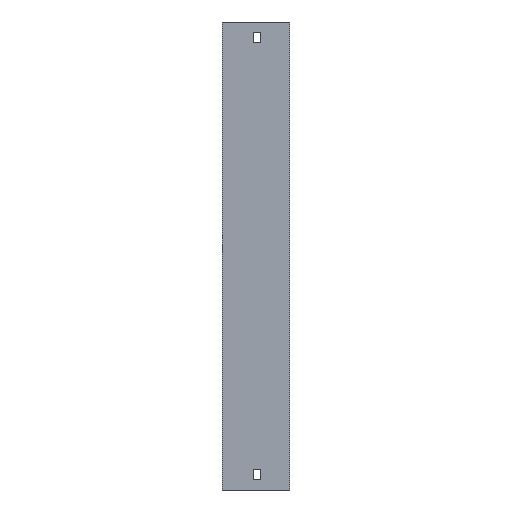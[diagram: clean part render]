
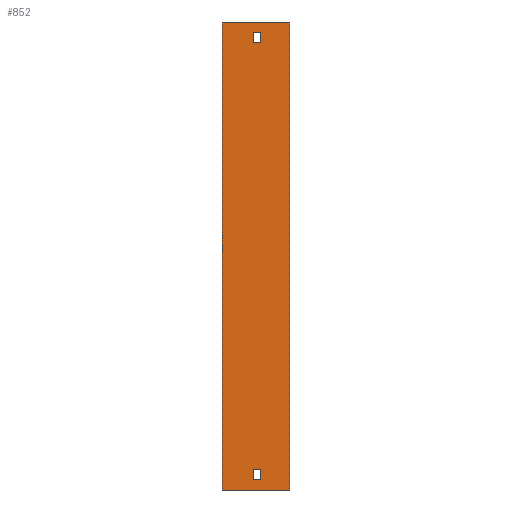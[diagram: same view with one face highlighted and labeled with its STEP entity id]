
A CAD part, left-side view. The second image highlights one B-rep face of the part: STEP entity #852.
In plain terms, the highlighted planar face has unit normal (-1, 0, 0).
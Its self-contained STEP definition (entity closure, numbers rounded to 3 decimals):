
#32 = LINE ( 'NONE', #645, #895 ) ;
#45 = VECTOR ( 'NONE', #1532, 1000. ) ;
#53 = CARTESIAN_POINT ( 'NONE',  ( -254., 35.5, 40. ) ) ;
#66 = LINE ( 'NONE', #1851, #595 ) ;
#78 = LINE ( 'NONE', #1244, #471 ) ;
#119 = DIRECTION ( 'NONE',  ( 0., 0., -1. ) ) ;
#122 = ORIENTED_EDGE ( 'NONE', *, *, #1823, .F. ) ;
#154 = VERTEX_POINT ( 'NONE', #1007 ) ;
#162 = EDGE_CURVE ( 'NONE', #809, #881, #602, .T. ) ;
#177 = LINE ( 'NONE', #53, #45 ) ;
#184 = CARTESIAN_POINT ( 'NONE',  ( -254., 65.5, -404. ) ) ;
#193 = EDGE_LOOP ( 'NONE', ( #242, #1343, #1552, #667 ) ) ;
#202 = VERTEX_POINT ( 'NONE', #489 ) ;
#203 = EDGE_CURVE ( 'NONE', #202, #599, #353, .T. ) ;
#210 = LINE ( 'NONE', #518, #1079 ) ;
#220 = DIRECTION ( 'NONE',  ( 0., -1., 0. ) ) ;
#242 = ORIENTED_EDGE ( 'NONE', *, *, #1492, .T. ) ;
#282 = LINE ( 'NONE', #874, #411 ) ;
#290 = DIRECTION ( 'NONE',  ( 0., -1., 0. ) ) ;
#353 = LINE ( 'NONE', #184, #1632 ) ;
#360 = EDGE_LOOP ( 'NONE', ( #1342, #726, #1155, #815 ) ) ;
#411 = VECTOR ( 'NONE', #290, 1000. ) ;
#415 = DIRECTION ( 'NONE',  ( 0., 0., -1. ) ) ;
#425 = LINE ( 'NONE', #1262, #1635 ) ;
#429 = ORIENTED_EDGE ( 'NONE', *, *, #655, .T. ) ;
#430 = DIRECTION ( 'NONE',  ( 0., 0., 1. ) ) ;
#433 = VERTEX_POINT ( 'NONE', #568 ) ;
#471 = VECTOR ( 'NONE', #838, 1000. ) ;
#484 = CARTESIAN_POINT ( 'NONE',  ( -254., 65.5, 50. ) ) ;
#489 = CARTESIAN_POINT ( 'NONE',  ( -254., 65.5, -404. ) ) ;
#518 = CARTESIAN_POINT ( 'NONE',  ( -254., 28.5, -394. ) ) ;
#565 = FACE_BOUND ( 'NONE', #193, .T. ) ;
#568 = CARTESIAN_POINT ( 'NONE',  ( -254., 28.5, -394. ) ) ;
#582 = LINE ( 'NONE', #1171, #715 ) ;
#595 = VECTOR ( 'NONE', #1710, 1000. ) ;
#599 = VERTEX_POINT ( 'NONE', #484 ) ;
#602 = LINE ( 'NONE', #1190, #888 ) ;
#628 = CARTESIAN_POINT ( 'NONE',  ( -254., 35.5, 30. ) ) ;
#645 = CARTESIAN_POINT ( 'NONE',  ( -254., 35.5, -384. ) ) ;
#655 = EDGE_CURVE ( 'NONE', #202, #809, #78, .T. ) ;
#667 = ORIENTED_EDGE ( 'NONE', *, *, #1068, .T. ) ;
#694 = CARTESIAN_POINT ( 'NONE',  ( -254., 28.5, 30. ) ) ;
#715 = VECTOR ( 'NONE', #1767, 1000. ) ;
#722 = EDGE_CURVE ( 'NONE', #1671, #154, #32, .T. ) ;
#726 = ORIENTED_EDGE ( 'NONE', *, *, #1634, .F. ) ;
#743 = EDGE_CURVE ( 'NONE', #433, #1671, #210, .T. ) ;
#809 = VERTEX_POINT ( 'NONE', #1141 ) ;
#811 = CARTESIAN_POINT ( 'NONE',  ( -254., 28.5, -384. ) ) ;
#813 = EDGE_CURVE ( 'NONE', #1648, #1586, #425, .T. ) ;
#815 = ORIENTED_EDGE ( 'NONE', *, *, #743, .F. ) ;
#817 = CARTESIAN_POINT ( 'NONE',  ( -254., 35.5, -394. ) ) ;
#838 = DIRECTION ( 'NONE',  ( 0., -1., 0. ) ) ;
#845 = CARTESIAN_POINT ( 'NONE',  ( -254., 65.5, -404. ) ) ;
#852 = ADVANCED_FACE ( 'NONE', ( #1890, #565, #1441 ), #1405, .F. ) ;
#874 = CARTESIAN_POINT ( 'NONE',  ( -254., 65.5, 50. ) ) ;
#877 = CARTESIAN_POINT ( 'NONE',  ( -254., 35.5, 40. ) ) ;
#881 = VERTEX_POINT ( 'NONE', #1735 ) ;
#888 = VECTOR ( 'NONE', #430, 1000. ) ;
#895 = VECTOR ( 'NONE', #1824, 1000. ) ;
#922 = VECTOR ( 'NONE', #220, 1000. ) ;
#1007 = CARTESIAN_POINT ( 'NONE',  ( -254., 35.5, -384. ) ) ;
#1068 = EDGE_CURVE ( 'NONE', #1586, #1802, #582, .T. ) ;
#1079 = VECTOR ( 'NONE', #1390, 1000. ) ;
#1141 = CARTESIAN_POINT ( 'NONE',  ( -254., 0., -404. ) ) ;
#1145 = VERTEX_POINT ( 'NONE', #1188 ) ;
#1150 = DIRECTION ( 'NONE',  ( 1., 0., 0. ) ) ;
#1155 = ORIENTED_EDGE ( 'NONE', *, *, #722, .F. ) ;
#1171 = CARTESIAN_POINT ( 'NONE',  ( -254., 35.5, 30. ) ) ;
#1179 = EDGE_CURVE ( 'NONE', #1333, #1648, #1641, .T. ) ;
#1188 = CARTESIAN_POINT ( 'NONE',  ( -254., 35.5, -394. ) ) ;
#1190 = CARTESIAN_POINT ( 'NONE',  ( -254., 0., -404. ) ) ;
#1244 = CARTESIAN_POINT ( 'NONE',  ( -254., 65.5, -404. ) ) ;
#1262 = CARTESIAN_POINT ( 'NONE',  ( -254., 28.5, 40. ) ) ;
#1300 = EDGE_CURVE ( 'NONE', #1145, #433, #1581, .T. ) ;
#1333 = VERTEX_POINT ( 'NONE', #1422 ) ;
#1342 = ORIENTED_EDGE ( 'NONE', *, *, #1300, .F. ) ;
#1343 = ORIENTED_EDGE ( 'NONE', *, *, #1179, .T. ) ;
#1346 = CARTESIAN_POINT ( 'NONE',  ( -254., 28.5, 40. ) ) ;
#1355 = ORIENTED_EDGE ( 'NONE', *, *, #203, .F. ) ;
#1390 = DIRECTION ( 'NONE',  ( 0., 0., 1. ) ) ;
#1405 = PLANE ( 'NONE',  #1474 ) ;
#1422 = CARTESIAN_POINT ( 'NONE',  ( -254., 35.5, 40. ) ) ;
#1441 = FACE_BOUND ( 'NONE', #360, .T. ) ;
#1474 = AXIS2_PLACEMENT_3D ( 'NONE', #845, #1150, #119 ) ;
#1476 = VECTOR ( 'NONE', #1935, 1000. ) ;
#1492 = EDGE_CURVE ( 'NONE', #1802, #1333, #177, .T. ) ;
#1532 = DIRECTION ( 'NONE',  ( 0., 0., 1. ) ) ;
#1552 = ORIENTED_EDGE ( 'NONE', *, *, #813, .T. ) ;
#1581 = LINE ( 'NONE', #817, #922 ) ;
#1586 = VERTEX_POINT ( 'NONE', #694 ) ;
#1632 = VECTOR ( 'NONE', #1792, 1000. ) ;
#1634 = EDGE_CURVE ( 'NONE', #154, #1145, #66, .T. ) ;
#1635 = VECTOR ( 'NONE', #415, 1000. ) ;
#1641 = LINE ( 'NONE', #877, #1476 ) ;
#1648 = VERTEX_POINT ( 'NONE', #1346 ) ;
#1671 = VERTEX_POINT ( 'NONE', #811 ) ;
#1710 = DIRECTION ( 'NONE',  ( 0., 0., -1. ) ) ;
#1735 = CARTESIAN_POINT ( 'NONE',  ( -254., 0., 50. ) ) ;
#1767 = DIRECTION ( 'NONE',  ( 0., 1., 0. ) ) ;
#1792 = DIRECTION ( 'NONE',  ( 0., 0., 1. ) ) ;
#1802 = VERTEX_POINT ( 'NONE', #628 ) ;
#1823 = EDGE_CURVE ( 'NONE', #599, #881, #282, .T. ) ;
#1824 = DIRECTION ( 'NONE',  ( 0., 1., 0. ) ) ;
#1851 = CARTESIAN_POINT ( 'NONE',  ( -254., 35.5, -394. ) ) ;
#1890 = FACE_OUTER_BOUND ( 'NONE', #1929, .T. ) ;
#1929 = EDGE_LOOP ( 'NONE', ( #1942, #122, #1355, #429 ) ) ;
#1935 = DIRECTION ( 'NONE',  ( 0., -1., 0. ) ) ;
#1942 = ORIENTED_EDGE ( 'NONE', *, *, #162, .T. ) ;
